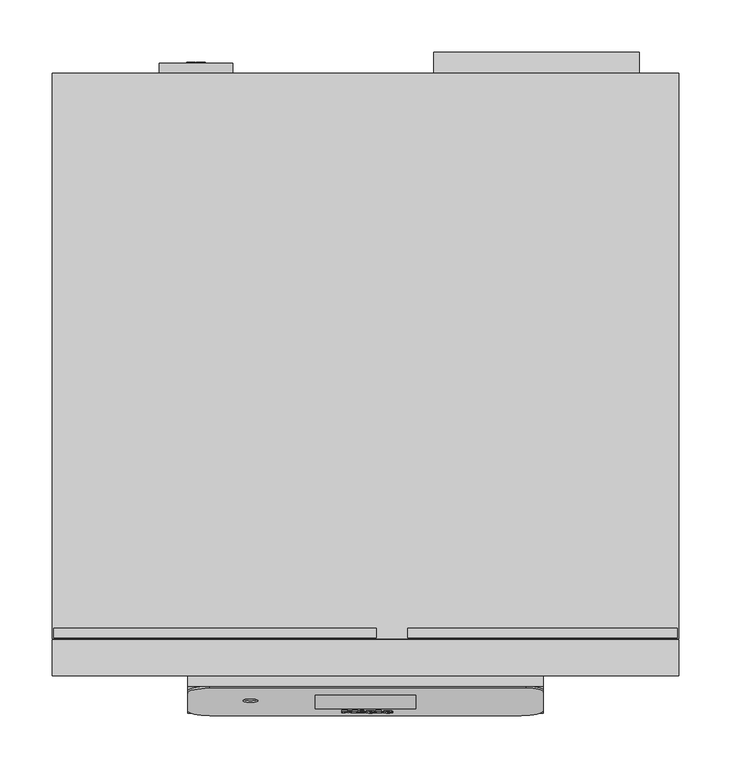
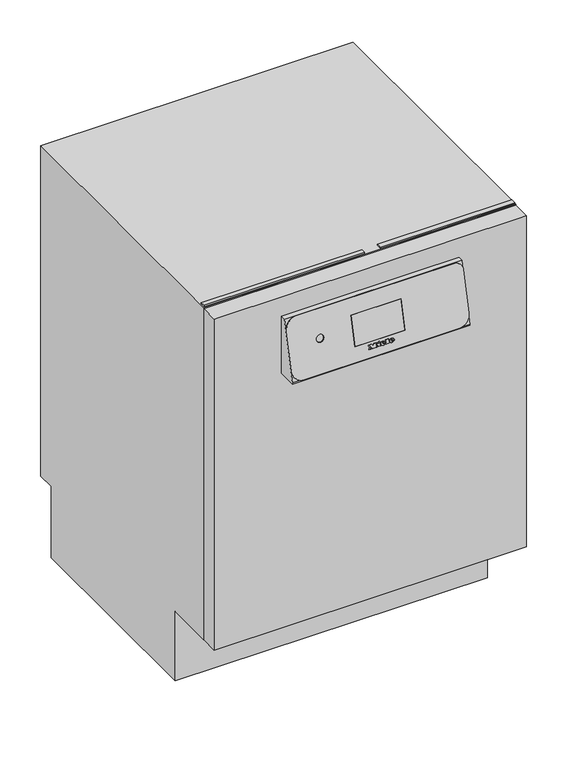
"""IFC4 building model written with IfcOpenShell, lengths in millimetres: proxy geometry, 12065780_NWE_PFD404UDOS_LW : 61040480_NWE_12065780_PFD404UDOS_LW."""

from ifc_helpers import new_model, si_unit, point, frame, frame_2d, origin, origin_with_axes, place, context, project, spatial, polyline, circle_curve, ellipse_curve, trimmed, segment, composite_curve, outline, extrude, source, transform, mapped, element, save
from ifc_brep_helpers import plane_surface, cylinder_surface, revolved_surface, extruded_surface, advanced_brep


def specialty_equipment_69813ec3(model_context):
    return source(origin(), model_context, "Body", "SolidModel", [
        advanced_brep(
        [(20.656, -35.3033059, 679.7712566), (20.656, -35.1215455, 680.5585476), (26.008, -35.1215455, 680.5585476), (16.696, -35.1215455, 680.5585476), (18.896, -35.7298131, 677.9238509), (25.872, -35.3033059, 679.7712566), (23.456, -35.3033059, 679.7712566), (21.552, -35.5048621, 678.898221), (20.656, -34.8911956, 681.5563025), (20.656, -34.6950383, 682.4059532), (22.024, -34.6950383, 682.4059532), (22.024, -34.8911956, 681.5563025), (20.656, -34.3289359, 679.5463055), (21.552, -34.530492, 678.6732699), (23.456, -34.3289359, 679.5463055), (25.872, -34.3289359, 679.5463055), (18.896, -34.7554431, 677.6988999), (16.696, -34.1471754, 680.3335965), (26.008, -34.1471754, 680.3335965), (20.656, -34.1471754, 680.3335965), (20.656, -33.9168255, 681.3313515), (22.024, -33.9168255, 681.3313515), (22.024, -33.7206682, 682.1810022), (20.656, -33.7206682, 682.1810022)],
        [
            (0, 1),
            (1, 2),
            (2, 3, ellipse_curve(frame((21.352, -35.1215455, 680.5585476), z_axis=(0.0, -0.9743700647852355, 0.22495105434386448), x_axis=(-1.0, 0.0, 0.0)), 4.656, 3.848)),
            (3, 4, circle_curve(frame((19.7920436, -35.0603588, 680.8235762), z_axis=(0.0, -0.9743700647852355, 0.22495105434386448), x_axis=(0.0, -0.22495105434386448, -0.9743700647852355)), 3.1079688)),
            (4, 5, circle_curve(frame((21.2587936, -34.5852622, 682.8814458), z_axis=(0.0, -0.9743700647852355, 0.22495105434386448), x_axis=(0.0, -0.22495105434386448, -0.9743700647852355)), 5.6098607)),
            (5, 6),
            (6, 7, circle_curve(frame((21.9430588, -35.1359424, 680.4961879), z_axis=(0.0, 0.9743700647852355, -0.22495105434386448), x_axis=(0.0, -0.22495105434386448, -0.9743700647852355)), 1.6859795)),
            (7, 0, circle_curve(frame((21.552, -35.3033059, 679.7712566), z_axis=(0.0, 0.9743700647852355, -0.22495105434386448), x_axis=(0.0, -0.22495105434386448, -0.9743700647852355)), 0.896)),
            (8, 9),
            (9, 10, circle_curve(frame((21.34, -34.6950383, 682.4059532), z_axis=(0.0, 0.9743700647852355, -0.22495105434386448), x_axis=(0.0, -0.22495105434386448, -0.9743700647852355)), 0.684)),
            (10, 11),
            (11, 8),
            (12, 13, circle_curve(frame((21.552, -34.3289359, 679.5463055), z_axis=(0.0, -0.9743700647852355, 0.22495105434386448), x_axis=(0.0, -0.22495105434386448, -0.9743700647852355)), 0.896)),
            (13, 14, circle_curve(frame((21.9430588, -34.1615723, 680.2712369), z_axis=(0.0, -0.9743700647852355, 0.22495105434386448), x_axis=(0.0, -0.22495105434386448, -0.9743700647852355)), 1.6859795)),
            (14, 15),
            (15, 16, circle_curve(frame((21.2587936, -33.6108921, 682.6564948), z_axis=(0.0, 0.9743700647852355, -0.22495105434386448), x_axis=(0.0, -0.22495105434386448, -0.9743700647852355)), 5.6098607)),
            (16, 17, circle_curve(frame((19.7920436, -34.0859887, 680.5986252), z_axis=(0.0, 0.9743700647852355, -0.22495105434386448), x_axis=(0.0, -0.22495105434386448, -0.9743700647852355)), 3.1079688)),
            (17, 18, ellipse_curve(frame((21.352, -34.1471754, 680.3335965), z_axis=(0.0, 0.9743700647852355, -0.22495105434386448), x_axis=(-1.0, 0.0, 0.0)), 4.656, 3.848)),
            (18, 19),
            (19, 12),
            (20, 21),
            (21, 22),
            (22, 23, circle_curve(frame((21.34, -33.7206682, 682.1810022), z_axis=(0.0, -0.9743700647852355, 0.22495105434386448), x_axis=(0.0, -0.22495105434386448, -0.9743700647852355)), 0.684)),
            (23, 20),
            (0, 12),
            (19, 1),
            (18, 2),
            (5, 15),
            (14, 6),
            (17, 3),
            (13, 7),
            (16, 4),
            (8, 20),
            (23, 9),
            (22, 10),
            (21, 11),
        ],
        [
            plane_surface(frame((20.656, -35.1215455, 680.5585476), z_axis=(0.0, -0.9743700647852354, 0.22495105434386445), x_axis=(0.0, 0.22495105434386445, 0.9743700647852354))),
            plane_surface(frame((20.656, -34.1471754, 680.3335965), z_axis=(0.0, 0.9743700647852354, -0.22495105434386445), x_axis=(0.0, -0.22495105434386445, -0.9743700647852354))),
            plane_surface(frame((20.656, -35.3033059, 679.7712566), z_axis=(1.0, 0.0, 0.0), x_axis=(0.0, 0.9743700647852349, -0.22495105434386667))),
            plane_surface(frame((20.656, -35.1215455, 680.5585476), z_axis=(0.0, -0.22495105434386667, -0.9743700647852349), x_axis=(0.0, 0.9743700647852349, -0.22495105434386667))),
            plane_surface(frame((25.872, -35.3033059, 679.7712566), z_axis=(0.0, 0.22495105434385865, 0.9743700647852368), x_axis=(0.0, 0.9743700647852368, -0.22495105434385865))),
            extruded_surface(trimmed(ellipse_curve(frame((21.352, -33.1728054, 680.1086455), z_axis=(0.0, -0.9743700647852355, 0.22495105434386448), x_axis=(-1.0, 0.0, 0.0)), 4.656, 3.848), [point((26.008, -33.1728054, 680.1086455))], [point((16.696, -33.1728054, 680.1086455))], True, "CARTESIAN"), (0.0, -0.9743700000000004, 0.22495100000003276), 0.9999999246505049),
            revolved_surface(polyline([(21.9430588, -34.54083511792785, 678.6284689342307), (21.9430588, -35.51520525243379, 678.8534200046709)]), (21.9430588, -34.1615723, 680.2712369), (0.0, 0.9743700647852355, -0.22495105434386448)),
            revolved_surface(polyline([(21.552, -34.53049199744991, 678.6732699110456), (21.552, -35.504862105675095, 678.8982209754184)]), (21.552, -34.3289359, 679.5463055), (0.0, 0.9743700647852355, -0.22495105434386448)),
            cylinder_surface(frame((19.7920436, -34.0859887, 680.5986252), z_axis=(0.0, -0.9743700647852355, 0.22495105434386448), x_axis=(0.0, -0.22495105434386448, -0.9743700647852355)), 3.1079688),
            cylinder_surface(frame((21.2587936, -33.6108921, 682.6564948), z_axis=(0.0, -0.9743700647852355, 0.22495105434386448), x_axis=(0.0, -0.22495105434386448, -0.9743700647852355)), 5.6098607),
            plane_surface(frame((20.656, -34.8911956, 681.5563025), z_axis=(1.0, 0.0, 0.0), x_axis=(0.0, 0.9743700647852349, -0.22495105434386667))),
            revolved_surface(polyline([(21.34, -33.8745347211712, 681.5145330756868), (21.34, -34.84890480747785, 681.7394841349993)]), (21.34, -33.7206682, 682.1810022), (0.0, 0.9743700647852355, -0.22495105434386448)),
            plane_surface(frame((22.024, -34.6950383, 682.4059532), z_axis=(-1.0, 0.0, 0.0), x_axis=(0.0, 0.9743700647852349, -0.22495105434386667))),
            plane_surface(frame((22.024, -34.8911956, 681.5563025), z_axis=(0.0, 0.22495105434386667, 0.9743700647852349), x_axis=(0.0, 0.9743700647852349, -0.22495105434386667))),
        ],
        [
            (0, [[1, 2, 3, 4, 5, 6, 7, 8], [9, 10, 11, 12]]),
            (1, [[13, 14, 15, 16, 17, 18, 19, 20], [21, 22, 23, 24]]),
            (2, [[-1, 25, -20, 26]]),
            (3, [[-2, -26, -19, 27]]),
            (4, [[-6, 28, -15, 29]]),
            (5, [[-3, -27, -18, 30]]),
            (6, [[-7, -29, -14, 31]]),
            (7, [[-8, -31, -13, -25]]),
            (8, [[-4, -30, -17, 32]]),
            (9, [[-5, -32, -16, -28]]),
            (10, [[-9, 33, -24, 34]]),
            (11, [[-10, -34, -23, 35]]),
            (12, [[-11, -35, -22, 36]]),
            (13, [[-12, -36, -21, -33]]),
        ],
    ),
        advanced_brep(
        [(3.96, -35.3033059, 679.7712566), (3.96, -35.1215455, 680.5585476), (9.312, -35.1215455, 680.5585476), (0.0, -35.1215455, 680.5585476), (2.2, -35.7298131, 677.9238509), (9.176, -35.3033059, 679.7712566), (6.76, -35.3033059, 679.7712566), (4.856, -35.5048621, 678.898221), (3.96, -34.8911956, 681.5563025), (3.96, -34.6950383, 682.4059532), (5.328, -34.6950383, 682.4059532), (5.328, -34.8911956, 681.5563025), (3.96, -34.3289359, 679.5463055), (4.856, -34.530492, 678.6732699), (6.76, -34.3289359, 679.5463055), (9.176, -34.3289359, 679.5463055), (2.2, -34.7554431, 677.6988999), (0.0, -34.1471754, 680.3335965), (9.312, -34.1471754, 680.3335965), (3.96, -34.1471754, 680.3335965), (3.96, -33.9168255, 681.3313515), (5.328, -33.9168255, 681.3313515), (5.328, -33.7206682, 682.1810022), (3.96, -33.7206682, 682.1810022)],
        [
            (0, 1),
            (1, 2),
            (2, 3, ellipse_curve(frame((4.656, -35.1215455, 680.5585476), z_axis=(0.0, -0.9743700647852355, 0.22495105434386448), x_axis=(-1.0, 0.0, 0.0)), 4.656, 3.848)),
            (3, 4, circle_curve(frame((3.0960436, -35.0603588, 680.8235762), z_axis=(0.0, -0.9743700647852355, 0.22495105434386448), x_axis=(0.0, -0.22495105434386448, -0.9743700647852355)), 3.1079688)),
            (4, 5, circle_curve(frame((4.5627936, -34.5852622, 682.8814458), z_axis=(0.0, -0.9743700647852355, 0.22495105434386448), x_axis=(0.0, -0.22495105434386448, -0.9743700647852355)), 5.6098607)),
            (5, 6),
            (6, 7, circle_curve(frame((5.2470588, -35.1359424, 680.4961879), z_axis=(0.0, 0.9743700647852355, -0.22495105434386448), x_axis=(0.0, -0.22495105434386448, -0.9743700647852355)), 1.6859795)),
            (7, 0, circle_curve(frame((4.856, -35.3033059, 679.7712566), z_axis=(0.0, 0.9743700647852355, -0.22495105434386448), x_axis=(0.0, -0.22495105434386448, -0.9743700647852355)), 0.896)),
            (8, 9),
            (9, 10, circle_curve(frame((4.644, -34.6950383, 682.4059532), z_axis=(0.0, 0.9743700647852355, -0.22495105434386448), x_axis=(0.0, -0.22495105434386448, -0.9743700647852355)), 0.684)),
            (10, 11),
            (11, 8),
            (12, 13, circle_curve(frame((4.856, -34.3289359, 679.5463055), z_axis=(0.0, -0.9743700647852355, 0.22495105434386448), x_axis=(0.0, -0.22495105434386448, -0.9743700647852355)), 0.896)),
            (13, 14, circle_curve(frame((5.2470588, -34.1615723, 680.2712369), z_axis=(0.0, -0.9743700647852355, 0.22495105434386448), x_axis=(0.0, -0.22495105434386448, -0.9743700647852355)), 1.6859795)),
            (14, 15),
            (15, 16, circle_curve(frame((4.5627936, -33.6108921, 682.6564948), z_axis=(0.0, 0.9743700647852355, -0.22495105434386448), x_axis=(0.0, -0.22495105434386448, -0.9743700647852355)), 5.6098607)),
            (16, 17, circle_curve(frame((3.0960436, -34.0859887, 680.5986252), z_axis=(0.0, 0.9743700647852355, -0.22495105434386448), x_axis=(0.0, -0.22495105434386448, -0.9743700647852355)), 3.1079688)),
            (17, 18, ellipse_curve(frame((4.656, -34.1471754, 680.3335965), z_axis=(0.0, 0.9743700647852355, -0.22495105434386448), x_axis=(-1.0, 0.0, 0.0)), 4.656, 3.848)),
            (18, 19),
            (19, 12),
            (20, 21),
            (21, 22),
            (22, 23, circle_curve(frame((4.644, -33.7206682, 682.1810022), z_axis=(0.0, -0.9743700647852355, 0.22495105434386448), x_axis=(0.0, -0.22495105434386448, -0.9743700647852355)), 0.684)),
            (23, 20),
            (0, 12),
            (19, 1),
            (18, 2),
            (5, 15),
            (14, 6),
            (17, 3),
            (13, 7),
            (16, 4),
            (8, 20),
            (23, 9),
            (22, 10),
            (21, 11),
        ],
        [
            plane_surface(frame((3.96, -35.1215455, 680.5585476), z_axis=(0.0, -0.9743700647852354, 0.22495105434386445), x_axis=(0.0, 0.22495105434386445, 0.9743700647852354))),
            plane_surface(frame((3.96, -34.1471754, 680.3335965), z_axis=(0.0, 0.9743700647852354, -0.22495105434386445), x_axis=(0.0, -0.22495105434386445, -0.9743700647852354))),
            plane_surface(frame((3.96, -35.3033059, 679.7712566), z_axis=(1.0000000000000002, 0.0, 0.0), x_axis=(0.0, 0.9743700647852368, -0.22495105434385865))),
            plane_surface(frame((3.96, -35.1215455, 680.5585476), z_axis=(0.0, -0.22495105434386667, -0.9743700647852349), x_axis=(0.0, 0.9743700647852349, -0.22495105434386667))),
            plane_surface(frame((9.176, -35.3033059, 679.7712566), z_axis=(0.0, 0.22495105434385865, 0.9743700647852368), x_axis=(0.0, 0.9743700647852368, -0.22495105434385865))),
            extruded_surface(trimmed(ellipse_curve(frame((4.656, -33.1728054, 680.1086455), z_axis=(0.0, -0.9743700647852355, 0.22495105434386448), x_axis=(-1.0, 0.0, 0.0)), 4.656, 3.848), [point((9.312, -33.1728054, 680.1086455))], [point((0.0, -33.1728054, 680.1086455))], True, "CARTESIAN"), (0.0, -0.9743700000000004, 0.22495100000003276), 0.9999999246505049),
            revolved_surface(polyline([(5.2470588, -34.54083511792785, 678.6284689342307), (5.2470588, -35.51520525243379, 678.8534200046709)]), (5.2470588, -34.1615723, 680.2712369), (0.0, 0.9743700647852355, -0.22495105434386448)),
            revolved_surface(polyline([(4.856, -34.53049199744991, 678.6732699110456), (4.856, -35.504862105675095, 678.8982209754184)]), (4.856, -34.3289359, 679.5463055), (0.0, 0.9743700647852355, -0.22495105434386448)),
            cylinder_surface(frame((3.0960436, -34.0859887, 680.5986252), z_axis=(0.0, -0.9743700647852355, 0.22495105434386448), x_axis=(0.0, -0.22495105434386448, -0.9743700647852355)), 3.1079688),
            cylinder_surface(frame((4.5627936, -33.6108921, 682.6564948), z_axis=(0.0, -0.9743700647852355, 0.22495105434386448), x_axis=(0.0, -0.22495105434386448, -0.9743700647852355)), 5.6098607),
            plane_surface(frame((3.96, -34.8911956, 681.5563025), z_axis=(1.0, 0.0, 0.0), x_axis=(0.0, 0.9743700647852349, -0.22495105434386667))),
            revolved_surface(polyline([(4.644, -33.8745347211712, 681.5145330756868), (4.644, -34.84890480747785, 681.7394841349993)]), (4.644, -33.7206682, 682.1810022), (0.0, 0.9743700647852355, -0.22495105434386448)),
            plane_surface(frame((5.328, -34.6950383, 682.4059532), z_axis=(-1.0, 0.0, 0.0), x_axis=(0.0, 0.9743700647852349, -0.22495105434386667))),
            plane_surface(frame((5.328, -34.8911956, 681.5563025), z_axis=(0.0, 0.22495105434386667, 0.9743700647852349), x_axis=(0.0, 0.9743700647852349, -0.22495105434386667))),
        ],
        [
            (0, [[1, 2, 3, 4, 5, 6, 7, 8], [9, 10, 11, 12]]),
            (1, [[13, 14, 15, 16, 17, 18, 19, 20], [21, 22, 23, 24]]),
            (2, [[-1, 25, -20, 26]]),
            (3, [[-2, -26, -19, 27]]),
            (4, [[-6, 28, -15, 29]]),
            (5, [[-3, -27, -18, 30]]),
            (6, [[-7, -29, -14, 31]]),
            (7, [[-8, -31, -13, -25]]),
            (8, [[-4, -30, -17, 32]]),
            (9, [[-5, -32, -16, -28]]),
            (10, [[-9, 33, -24, 34]]),
            (11, [[-10, -34, -23, 35]]),
            (12, [[-11, -35, -22, 36]]),
            (13, [[-12, -36, -21, -33]]),
        ],
    ),
        extrude(outline(polyline([(0.0, 0.0), (-0.0109086, -2.9993294), (-1.4390415, -2.9920868), (-1.4315307, 0.0), (0.0, 0.0)])), frame((-4.784, -33.0620115, 685.0339577), z_axis=(0.0, -0.9743700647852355, 0.22495105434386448), x_axis=(-0.4247202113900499, 0.20365373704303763, 0.8821212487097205)), (0.0, 0.0, 1.0), 1.0),
        extrude(outline(polyline([(-0.4933907, 2.4141097), (-2.7800844, -2.4601583), (-7.0459742, -0.4588766), (-7.4401146, -1.2990179), (-8.6568709, -0.728194), (-5.9760369, 4.9862153), (-4.7592806, 4.4153913), (-5.1636142, 3.5535223), (-2.1941493, 2.1604399), (-1.7898156, 3.022309), (-0.4933907, 2.4141097)])), frame((-4.784, -33.0620115, 685.0339577), z_axis=(0.0, -0.9743700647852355, 0.22495105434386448), x_axis=(-0.4247202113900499, 0.20365373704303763, 0.8821212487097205)), (0.0, 0.0, 1.0), 1.0),
        extrude(outline(polyline([(0.0, 0.0), (0.0, -1.304), (-5.504, -1.304), (-5.504, 5.352), (-6.488, 5.352), (-6.488, 6.696), (0.0, 6.696), (0.0, 5.352), (-0.96, 5.352), (-0.96, 0.0), (0.0, 0.0)])), frame((9.76, -33.2491708, 684.2232818), z_axis=(0.0, -0.9743700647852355, 0.22495105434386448), x_axis=(-1.0, 0.0, 0.0)), (0.0, 0.0, 1.0), 1.0),
        extrude(outline(polyline([(0.0, 0.0), (0.0, -1.304), (-5.576, -1.304), (-7.92, 1.696), (-10.256, -1.304), (-15.128, -1.304), (-15.128, 0.0), (-14.112, 0.0), (-14.112, 5.352), (-15.128, 5.352), (-15.128, 6.696), (-8.744, 6.696), (-8.744, 5.352), (-9.728, 5.352), (-9.728, 1.8807777), (-6.136, 6.696), (-2.56, 1.9488753), (-2.56, 5.352), (-3.52, 5.352), (-3.52, 6.696), (0.0, 6.696), (0.0, 5.352), (-0.968, 5.352), (-0.968, 0.0), (0.0, 0.0)])), frame((-22.704, -33.2491708, 684.2232818), z_axis=(0.0, -0.9743700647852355, 0.22495105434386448), x_axis=(-1.0, 0.0, 0.0)), (0.0, 0.0, 1.0), 1.0),
        extrude(outline(polyline([(-0.1038681, 775.5857792), (-0.1038681, 660.0), (-36.1981904, 660.0), (-36.1981904, 662.5588517), (-10.1038681, 775.5857792), (-0.1038681, 775.5857792)])), frame((-169.8831565, 0.0, 0.0), z_axis=(1.0, 0.0, 0.0), x_axis=(0.0, 1.0, 0.0)), (0.0, 0.0, 1.0), 339.766313),
        extrude(outline(polyline([(299.0, 34.0), (299.0, 0.0), (-299.0, 0.0), (-299.0, 34.0), (299.0, 34.0)])), frame((0.0, 0.0, 145.0), z_axis=(0.0, 0.0, 1.0), x_axis=(1.0, 0.0, 0.0)), (0.0, 0.0, 1.0), 670.0),
        advanced_brep(
        [(153.3281651, -12.0526082, 776.0356813), (-148.8831565, -12.0526082, 776.0356813), (-169.8831565, -16.7765804, 755.57391), (-169.8831565, -33.4229584, 683.4705252), (-148.8831565, -38.1469305, 663.0087538), (148.8831565, -38.1469305, 663.0087538), (169.8831565, -33.4229584, 683.4705252), (169.8831565, -15.776671, 759.9049933), (48.0, -18.9868916, 746.0), (48.0, -31.9155103, 690.0), (-48.0, -31.9155103, 690.0), (-48.0, -18.9868916, 746.0), (-102.8831565, -24.0088923, 724.2473253), (-116.8831565, -24.0088923, 724.2473253), (148.8831565, -36.1981904, 662.5588517), (169.8831565, -31.4742182, 683.0206231), (169.8831565, -13.8279308, 759.4550912), (153.3281651, -10.1038681, 775.5857792), (48.0, -16.9342834, 746.0), (48.0, -29.8629021, 690.0), (-48.0, -29.8629021, 690.0), (-48.0, -16.9342834, 746.0), (-148.8831565, -36.1981904, 662.5588517), (-169.8831565, -31.4742182, 683.0206231), (-169.8831565, -14.8278402, 755.1240079), (-148.8831565, -10.1038681, 775.5857792), (-116.8831565, -22.4281396, 723.8823798), (-102.8831565, -22.4281396, 723.8823798)],
        [
            (0, 1),
            (1, 2, circle_curve(frame((-148.8831565, -16.7765804, 755.57391), z_axis=(0.0, -0.9743700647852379, 0.22495105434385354), x_axis=(1.0, 0.0, 0.0)), 21.0)),
            (2, 3),
            (3, 4, circle_curve(frame((-148.8831565, -33.4229584, 683.4705252), z_axis=(0.0, -0.9743700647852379, 0.22495105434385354), x_axis=(1.0, 0.0, 0.0)), 21.0)),
            (4, 5),
            (5, 6, circle_curve(frame((148.8831565, -33.4229584, 683.4705252), z_axis=(0.0, -0.9743700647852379, 0.22495105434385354), x_axis=(1.0, 0.0, 0.0)), 21.0)),
            (6, 7),
            (7, 0, circle_curve(frame((153.3281651, -15.776671, 759.9049933), z_axis=(0.0, -0.9743700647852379, 0.22495105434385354), x_axis=(1.0, 0.0, 0.0)), 16.5549913)),
            (8, 9),
            (9, 10),
            (10, 11),
            (11, 8),
            (12, 13, circle_curve(frame((-109.8831565, -24.0088923, 724.2473253), z_axis=(0.0, 0.9743700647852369, -0.22495105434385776), x_axis=(1.0, 0.0, 0.0)), 7.0)),
            (13, 12, circle_curve(frame((-109.8831565, -24.0088923, 724.2473253), z_axis=(0.0, 0.9743700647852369, -0.22495105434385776), x_axis=(1.0, 0.0, 0.0)), 7.0)),
            (5, 14),
            (14, 15, circle_curve(frame((148.8831565, -31.4742182, 683.0206231), z_axis=(0.0, -0.9743700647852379, 0.22495105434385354), x_axis=(1.0, 0.0, 0.0)), 21.0)),
            (15, 6),
            (15, 16),
            (16, 7),
            (16, 17, circle_curve(frame((153.3281651, -13.8279308, 759.4550912), z_axis=(0.0, -0.9743700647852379, 0.22495105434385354), x_axis=(1.0, 0.0, 0.0)), 16.5549913)),
            (17, 0),
            (8, 18),
            (18, 19),
            (19, 9),
            (19, 20),
            (20, 10),
            (11, 21),
            (21, 18),
            (20, 21),
            (14, 22),
            (22, 23, circle_curve(frame((-148.8831565, -31.4742182, 683.0206231), z_axis=(0.0, 0.9743700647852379, -0.22495105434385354), x_axis=(1.0, 0.0, 0.0)), 21.0)),
            (23, 24),
            (24, 25, circle_curve(frame((-148.8831565, -14.8278402, 755.1240079), z_axis=(0.0, 0.9743700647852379, -0.22495105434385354), x_axis=(1.0, 0.0, 0.0)), 21.0)),
            (25, 17),
            (25, 1),
            (24, 2),
            (23, 3),
            (22, 4),
            (26, 27, circle_curve(frame((-109.8831565, -22.4281396, 723.8823798), z_axis=(0.0, -0.9743700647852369, 0.22495105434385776), x_axis=(1.0, 0.0, 0.0)), 7.0)),
            (27, 26, circle_curve(frame((-109.8831565, -22.4281396, 723.8823798), z_axis=(0.0, -0.9743700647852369, 0.22495105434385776), x_axis=(1.0, 0.0, 0.0)), 7.0)),
            (26, 13),
            (12, 27),
        ],
        [
            plane_surface(frame((-166.8819453, -12.0526082, 776.0356813), z_axis=(0.0, -0.9743700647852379, 0.22495105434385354), x_axis=(-1.0, 0.0, 0.0))),
            cylinder_surface(frame((148.8831565, -31.4742182, 683.0206231), z_axis=(0.0, -0.9743700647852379, 0.22495105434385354), x_axis=(1.0, 0.0, 0.0)), 21.0),
            plane_surface(frame((169.8831565, -33.4229584, 683.4705252), z_axis=(1.0000000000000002, 0.0, 0.0), x_axis=(0.0, 0.9743700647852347, -0.22495105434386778))),
            cylinder_surface(frame((153.3281651, -13.8279308, 759.4550912), z_axis=(0.0, -0.9743700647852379, 0.22495105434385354), x_axis=(1.0, 0.0, 0.0)), 16.5549913),
            plane_surface(frame((48.0, -31.9155103, 690.0), z_axis=(-1.0, 0.0, 0.0), x_axis=(0.0, 1.0, 0.0))),
            plane_surface(frame((48.0, -31.9155103, 690.0), z_axis=(0.0, 0.0, 1.0), x_axis=(-1.0, 0.0, 0.0))),
            plane_surface(frame((48.0, -16.9342834, 746.0), z_axis=(0.0, 0.0, -1.0), x_axis=(-1.0, 0.0, 0.0))),
            plane_surface(frame((-48.0, -31.9155103, 690.0), z_axis=(1.0, 0.0, 0.0), x_axis=(0.0, -1.0, 0.0))),
            plane_surface(frame((-166.8819453, -10.1038681, 775.5857792), z_axis=(0.0, 0.9743700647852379, -0.22495105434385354), x_axis=(1.0, 0.0, 0.0))),
            plane_surface(frame((153.3281651, -12.0526082, 776.0356813), z_axis=(0.0, 0.22495105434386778, 0.9743700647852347), x_axis=(0.0, 0.9743700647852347, -0.22495105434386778))),
            cylinder_surface(frame((-148.8831565, -14.8278402, 755.1240079), z_axis=(0.0, -0.9743700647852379, 0.22495105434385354), x_axis=(1.0, 0.0, 0.0)), 21.0),
            plane_surface(frame((-169.8831565, -16.7765804, 755.57391), z_axis=(-1.0, 0.0, 0.0), x_axis=(0.0, 0.9743700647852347, -0.22495105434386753))),
            cylinder_surface(frame((-148.8831565, -31.4742182, 683.0206231), z_axis=(0.0, -0.9743700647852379, 0.22495105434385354), x_axis=(1.0, 0.0, 0.0)), 21.0),
            plane_surface(frame((-148.8831565, -38.1469305, 663.0087538), z_axis=(0.0, -0.22495105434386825, -0.9743700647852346), x_axis=(0.0, 0.9743700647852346, -0.22495105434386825))),
            plane_surface(frame((-102.8831565, -22.4281396, 723.8823798), z_axis=(0.0, -0.9743700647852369, 0.2249510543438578), x_axis=(0.0, -0.2249510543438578, -0.9743700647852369))),
            revolved_surface(polyline([(-102.8831565, -24.008892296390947, 724.2473253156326), (-102.8831565, -22.4281396, 723.8823798)]), (-109.8831565, -22.4281396, 723.8823798), (0.0, -0.9743700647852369, 0.22495105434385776)),
        ],
        [
            (0, [[1, 2, 3, 4, 5, 6, 7, 8], [9, 10, 11, 12], [13, 14]]),
            (1, [[-6, 15, 16, 17]]),
            (2, [[-7, -17, 18, 19]]),
            (3, [[-8, -19, 20, 21]]),
            (4, [[22, 23, 24, -9]]),
            (5, [[-24, 25, 26, -10]]),
            (6, [[-22, -12, 27, 28]]),
            (7, [[-26, 29, -27, -11]]),
            (8, [[-20, -18, -16, 30, 31, 32, 33, 34], [-23, -28, -29, -25]]),
            (9, [[-1, -21, -34, 35]]),
            (10, [[-2, -35, -33, 36]]),
            (11, [[-3, -36, -32, 37]]),
            (12, [[-4, -37, -31, 38]]),
            (13, [[-5, -38, -30, -15]]),
            (14, [[39, 40]]),
            (15, [[-39, 41, -13, 42]]),
            (15, [[-40, -42, -14, -41]]),
        ],
    ),
        extrude(outline(polyline([(-29.8629021, 690.0), (-31.9155103, 690.0), (-18.9868916, 746.0), (-16.9342834, 746.0), (-29.8629021, 690.0)])), frame((-48.0, 0.0, 0.0), z_axis=(1.0, 0.0, 0.0), x_axis=(0.0, 1.0, 0.0)), (0.0, 0.0, 1.0), 96.0),
        extrude(outline(polyline([(297.9027562, 45.259625), (297.9027562, 36.259625), (40.425123, 36.259625), (40.425123, 45.259625), (297.9027562, 45.259625)])), frame((0.0, 0.0, 817.0), z_axis=(0.0, 0.0, 1.0), x_axis=(1.0, 0.0, 0.0)), (0.0, 0.0, 1.0), 3.0),
        extrude(outline(polyline([(10.1158911, 45.259625), (10.1158911, 36.259625), (-297.5390632, 36.259625), (-297.5390632, 45.259625), (10.1158911, 45.259625)])), frame((0.0, 0.0, 817.0), z_axis=(0.0, 0.0, 1.0), x_axis=(1.0, 0.0, 0.0)), (0.0, 0.0, 1.0), 3.0),
        extrude(outline(polyline([(35.0, 817.0), (575.0, 817.0), (575.0, 148.0), (541.0, 148.0), (541.0, 4.2000122), (129.0, 4.2000122), (129.0, 145.0), (35.0, 145.0), (35.0, 817.0)])), frame((-299.0, 0.0, 0.0), z_axis=(1.0, 0.0, 0.0), x_axis=(0.0, 1.0, 0.0)), (0.0, 0.0, 1.0), 598.0),
        extrude(outline(polyline([(-172.0947306, 541.0), (-252.9150967, 541.0), (-252.9150967, 546.8796322), (-172.0947306, 546.8796322), (-172.0947306, 541.0)])), frame((0.0, 0.0, 83.2113443), z_axis=(0.0, 0.0, 1.0), x_axis=(1.0, 0.0, 0.0)), (0.0, 0.0, 1.0), 9.5402229),
        extrude(outline(polyline([(-172.0947306, 541.0), (-252.9150967, 541.0), (-252.9150967, 546.8796322), (-172.0947306, 546.8796322), (-172.0947306, 541.0)])), frame((0.0, 0.0, 67.2113431), z_axis=(0.0, 0.0, 1.0), x_axis=(1.0, 0.0, 0.0)), (0.0, 0.0, 1.0), 9.5826234),
        extrude(outline(polyline([(-172.0947306, 541.0), (-252.9150967, 541.0), (-252.9150967, 546.8796322), (-172.0947306, 546.8796322), (-172.0947306, 541.0)])), frame((0.0, 0.0, 49.1113767), z_axis=(0.0, 0.0, 1.0), x_axis=(1.0, 0.0, 0.0)), (0.0, 0.0, 1.0), 11.5700235),
        extrude(outline(polyline([(48.0999756, 96.1730873), (58.1456066, 98.9125818), (58.1456066, 97.6176372), (51.5433511, 96.028387), (49.5052848, 95.5378777), (51.3079066, 95.0130327), (58.1456066, 93.0215648), (58.1456066, 91.1551768), (53.1890099, 89.7081743), (49.5052848, 88.6315064), (51.4844899, 88.1557123), (58.1456066, 86.5517468), (58.1456066, 85.2568022), (48.0999756, 87.9987493), (48.0999756, 89.3402923), (55.850023, 91.7486931), (56.931596, 92.084692), (55.6292938, 92.4623842), (48.0999756, 94.6574134), (48.0999756, 96.1730873)])), frame((0.0, 571.0, 0.0), z_axis=(0.0, 1.0, 0.0), x_axis=(0.0, 0.0, 1.0)), (0.0, 0.0, 1.0), 1.0),
        extrude(outline(polyline([(48.0999756, 82.2033816), (58.1456066, 84.9428762), (58.1456066, 83.6479316), (51.5433511, 82.0586814), (49.5052848, 81.568172), (51.3079066, 81.0433271), (58.1456066, 79.0518592), (58.1456066, 77.1854712), (53.1890099, 75.7384687), (49.5052848, 74.6618007), (51.4844899, 74.1860067), (58.1456066, 72.5820412), (58.1456066, 71.2870966), (48.0999756, 74.0290437), (48.0999756, 75.3705867), (55.850023, 77.7789875), (56.931596, 78.1149864), (55.6292938, 78.4926786), (48.0999756, 80.6877078), (48.0999756, 82.2033816)])), frame((0.0, 571.0, 0.0), z_axis=(0.0, 1.0, 0.0), x_axis=(0.0, 0.0, 1.0)), (0.0, 0.0, 1.0), 1.0),
        extrude(outline(polyline([(56.599963, 201.5578418), (66.645594, 204.2973364), (66.645594, 203.0023917), (60.0433385, 201.4131415), (58.0052722, 200.9226322), (59.807894, 200.3977872), (66.645594, 198.4063193), (66.645594, 196.5399313), (61.6889973, 195.0929288), (58.0052722, 194.0162609), (59.9844773, 193.5404668), (66.645594, 191.9365013), (66.645594, 190.6415567), (56.599963, 193.3835038), (56.599963, 194.7250468), (64.3500104, 197.1334476), (65.4315834, 197.4694465), (64.1292812, 197.8471387), (56.599963, 200.0421679), (56.599963, 201.5578418)])), frame((0.0, 571.0, 0.0), z_axis=(0.0, 1.0, 0.0), x_axis=(0.0, 0.0, 1.0)), (0.0, 0.0, 1.0), 1.0),
        extrude(outline(polyline([(56.599963, 212.6163745), (66.645594, 212.6163745), (66.645594, 211.3606707), (61.728238, 211.3606707), (66.645594, 206.2103227), (66.645594, 204.4542993), (62.5155055, 208.7781391), (56.599963, 204.2973364), (56.599963, 205.8326305), (61.6669243, 209.6684135), (60.0531487, 211.3606707), (56.599963, 211.3606707), (56.599963, 212.6163745)])), frame((0.0, 571.0, 0.0), z_axis=(0.0, 1.0, 0.0), x_axis=(0.0, 0.0, 1.0)), (0.0, 0.0, 1.0), 1.0),
        extrude(outline(composite_curve([segment(trimmed(circle_curve(frame_2d((61.599963, 202.0998546)), 8.0), [point((61.599963, 194.0998546))], [point((61.599963, 210.0998546))], False, "CARTESIAN"), True, "CONTINUOUS"), segment(trimmed(circle_curve(frame_2d((61.599963, 202.0998546)), 8.0), [point((61.599963, 210.0998546))], [point((61.599963, 194.0998546))], False, "CARTESIAN"), True, "CONTINUOUS")], self_intersect=False)), frame((0.0, 541.0, 0.0), z_axis=(0.0, 1.0, 0.0), x_axis=(0.0, 0.0, 1.0)), (0.0, 0.0, 1.0), 30.0),
        extrude(outline(polyline([(61.1702758, 140.618963), (71.2159068, 140.618963), (71.2159068, 133.3986657), (69.960203, 133.3986657), (69.960203, 139.3632591), (66.9779062, 139.3632591), (66.9779062, 133.7125916), (65.7222024, 133.7125916), (65.7222024, 139.3632591), (62.4259797, 139.3632591), (62.4259797, 133.2417027), (61.1702758, 133.2417027), (61.1702758, 140.618963)])), frame((0.0, 571.0, 0.0), z_axis=(0.0, 1.0, 0.0), x_axis=(0.0, 0.0, 1.0)), (0.0, 0.0, 1.0), 1.0),
        extrude(outline(polyline([(61.1702758, 131.3581469), (71.2159068, 131.3581469), (71.2159068, 130.102443), (62.4259797, 130.102443), (62.4259797, 125.0796275), (61.1702758, 125.0796275), (61.1702758, 131.3581469)])), frame((0.0, 571.0, 0.0), z_axis=(0.0, 1.0, 0.0), x_axis=(0.0, 0.0, 1.0)), (0.0, 0.0, 1.0), 1.0),
        extrude(outline(polyline([(118.1398187, 18.2077062), (128.1854497, 18.2077062), (128.1854497, 14.7422578), (128.0407495, 12.9494462), (127.3221533, 11.4730132), (125.6053707, 10.283528), (123.2165903, 9.888668), (121.1895605, 10.1559956), (119.7266164, 10.8427087), (118.8154953, 11.7599611), (118.311497, 12.9604827), (118.1398187, 14.5754846), (118.1398187, 18.2077062)]), holes=[polyline([(119.3955226, 16.9520023), (119.3955226, 14.7299951), (119.5770111, 13.1137669), (120.0895933, 12.1817991), (121.3367133, 11.4178309), (123.2362106, 11.1443719), (125.6151809, 11.6802533), (126.728637, 12.9837819), (126.9297459, 14.7643307), (126.9297459, 16.9520023), (119.3955226, 16.9520023)])]), frame((0.0, 571.0, 0.0), z_axis=(0.0, 1.0, 0.0), x_axis=(0.0, 0.0, 1.0)), (0.0, 0.0, 1.0), 1.0),
        extrude(outline(polyline([(121.5930044, 8.6329642), (121.5930044, 7.3772603), (120.3360742, 6.9725901), (119.5414491, 5.9842138), (119.2385596, 4.4783502), (119.4678727, 3.1662377), (120.0981772, 2.3188828), (120.940627, 2.0405188), (121.7242156, 2.2489853), (122.2944327, 3.1024715), (122.7739056, 4.930845), (123.3931736, 6.8990137), (124.3275939, 7.9670977), (125.5759401, 8.3190382), (126.9971909, 7.8837112), (128.0002825, 6.6120657), (128.3424127, 4.7505828), (127.9843409, 2.7640201), (126.9321984, 1.4396449), (125.360116, 0.9417779), (125.360116, 2.1974818), (126.6501555, 2.9087203), (127.0867088, 4.7015319), (126.6550606, 6.4992486), (125.6127283, 7.0633343), (124.7420743, 6.6635692), (124.0406459, 4.6132402), (123.4103414, 2.391233), (122.3925346, 1.1759961), (120.9725101, 0.7848149), (119.4703253, 1.2348572), (118.3740369, 2.5298019), (117.9828557, 4.4292992), (118.4046938, 6.6721531), (119.6751129, 8.0909513), (121.5930044, 8.6329642)])), frame((0.0, 571.0, 0.0), z_axis=(0.0, 1.0, 0.0), x_axis=(0.0, 0.0, 1.0)), (0.0, 0.0, 1.0), 1.0),
        extrude(outline(composite_curve([segment(trimmed(circle_curve(frame_2d((126.8499756, 10.1811127)), 2.9851521), [point((126.8499756, 7.1959606))], [point((126.8499756, 13.1662647))], False, "CARTESIAN"), True, "CONTINUOUS"), segment(trimmed(circle_curve(frame_2d((126.8499756, 10.1811127)), 2.9851521), [point((126.8499756, 13.1662647))], [point((126.8499756, 7.1959606))], False, "CARTESIAN"), True, "CONTINUOUS")], self_intersect=False)), frame((0.0, 541.0, 0.0), z_axis=(0.0, 1.0, 0.0), x_axis=(0.0, 0.0, 1.0)), (0.0, 0.0, 1.0), 30.0),
        extrude(outline(composite_curve([segment(trimmed(circle_curve(frame_2d((117.0999756, 10.1811127)), 3.0), [point((117.0999756, 7.1811127))], [point((117.0999756, 13.1811127))], False, "CARTESIAN"), True, "CONTINUOUS"), segment(trimmed(circle_curve(frame_2d((117.0999756, 10.1811127)), 3.0), [point((117.0999756, 13.1811127))], [point((117.0999756, 7.1811127))], False, "CARTESIAN"), True, "CONTINUOUS")], self_intersect=False)), frame((0.0, 541.0, 0.0), z_axis=(0.0, 1.0, 0.0), x_axis=(0.0, 0.0, 1.0)), (0.0, 0.0, 1.0), 30.0),
        extrude(outline(composite_curve([segment(trimmed(circle_curve(frame_2d((107.3499443, 10.1811127)), 3.0), [point((107.3499443, 7.1811127))], [point((107.3499443, 13.1811127))], False, "CARTESIAN"), True, "CONTINUOUS"), segment(trimmed(circle_curve(frame_2d((107.3499443, 10.1811127)), 3.0), [point((107.3499443, 13.1811127))], [point((107.3499443, 7.1811127))], False, "CARTESIAN"), True, "CONTINUOUS")], self_intersect=False)), frame((0.0, 541.0, 0.0), z_axis=(0.0, 1.0, 0.0), x_axis=(0.0, 0.0, 1.0)), (0.0, 0.0, 1.0), 30.0),
        extrude(outline(composite_curve([segment(trimmed(circle_curve(frame_2d((136.5999756, 10.1811127)), 3.0), [point((136.5999756, 7.1811127))], [point((136.5999756, 13.1811127))], False, "CARTESIAN"), True, "CONTINUOUS"), segment(trimmed(circle_curve(frame_2d((136.5999756, 10.1811127)), 3.0), [point((136.5999756, 13.1811127))], [point((136.5999756, 7.1811127))], False, "CARTESIAN"), True, "CONTINUOUS")], self_intersect=False)), frame((0.0, 541.0, 0.0), z_axis=(0.0, 1.0, 0.0), x_axis=(0.0, 0.0, 1.0)), (0.0, 0.0, 1.0), 30.0),
        extrude(outline(polyline([(99.6239875, 19.6811122), (148.0, 19.6811122), (148.0, 1.1811127), (99.6239875, 1.1811127), (99.6239875, 19.6811122)]), holes=[polyline([(100.6239875, 18.6811122), (100.6239875, 2.1811127), (147.0, 2.1811127), (147.0, 18.6811122), (100.6239875, 18.6811122)])]), frame((0.0, 541.0, 0.0), z_axis=(0.0, 1.0, 0.0), x_axis=(0.0, 0.0, 1.0)), (0.0, 0.0, 1.0), 1.0),
        extrude(outline(polyline([(118.1398187, -7.1235653), (128.1854497, -7.1235653), (128.1854497, -10.5890137), (128.0407495, -12.3818253), (127.3221533, -13.8582584), (125.6053707, -15.0477435), (123.2165903, -15.4426035), (121.1895605, -15.1752759), (119.7266164, -14.4885629), (118.8154953, -13.5713104), (118.311497, -12.3707889), (118.1398187, -10.7557869), (118.1398187, -7.1235653)]), holes=[polyline([(119.3955226, -8.3792692), (119.3955226, -10.6012765), (119.5770111, -12.2175047), (120.0895933, -13.1494724), (121.3367133, -13.9134407), (123.2362106, -14.1868996), (125.6151809, -13.6510182), (126.728637, -12.3474897), (126.9297459, -10.5669408), (126.9297459, -8.3792692), (119.3955226, -8.3792692)])]), frame((0.0, 571.0, 0.0), z_axis=(0.0, 1.0, 0.0), x_axis=(0.0, 0.0, 1.0)), (0.0, 0.0, 1.0), 1.0),
        extrude(outline(polyline([(121.5930044, -16.6983074), (121.5930044, -17.9540113), (120.3360742, -18.3586815), (119.5414491, -19.3470578), (119.2385596, -20.8529214), (119.4678727, -22.1650338), (120.0981772, -23.0123887), (120.940627, -23.2907528), (121.7242156, -23.0822863), (122.2944327, -22.2288001), (122.7739056, -20.4004265), (123.3931736, -18.4322579), (124.3275939, -17.3641738), (125.5759401, -17.0122334), (126.9971909, -17.4475604), (128.0002825, -18.7192058), (128.3424127, -20.5806887), (127.9843409, -22.5672515), (126.9321984, -23.8916267), (125.360116, -24.3894936), (125.360116, -23.1337898), (126.6501555, -22.4225512), (127.0867088, -20.6297397), (126.6550606, -18.832023), (125.6127283, -18.2679372), (124.7420743, -18.6677023), (124.0406459, -20.7180313), (123.4103414, -22.9400386), (122.3925346, -24.1552754), (120.9725101, -24.5464566), (119.4703253, -24.0964143), (118.3740369, -22.8014697), (117.9828557, -20.9019723), (118.4046938, -18.6591184), (119.6751129, -17.2403202), (121.5930044, -16.6983074)])), frame((0.0, 571.0, 0.0), z_axis=(0.0, 1.0, 0.0), x_axis=(0.0, 0.0, 1.0)), (0.0, 0.0, 1.0), 1.0),
        extrude(outline(composite_curve([segment(trimmed(circle_curve(frame_2d((126.8499756, -15.1501589)), 2.9851521), [point((126.8499756, -18.135311))], [point((126.8499756, -12.1650068))], False, "CARTESIAN"), True, "CONTINUOUS"), segment(trimmed(circle_curve(frame_2d((126.8499756, -15.1501589)), 2.9851521), [point((126.8499756, -12.1650068))], [point((126.8499756, -18.135311))], False, "CARTESIAN"), True, "CONTINUOUS")], self_intersect=False)), frame((0.0, 541.0, 0.0), z_axis=(0.0, 1.0, 0.0), x_axis=(0.0, 0.0, 1.0)), (0.0, 0.0, 1.0), 30.0),
        extrude(outline(composite_curve([segment(trimmed(circle_curve(frame_2d((117.0999756, -15.1501589)), 3.0), [point((117.0999756, -18.1501589))], [point((117.0999756, -12.1501589))], False, "CARTESIAN"), True, "CONTINUOUS"), segment(trimmed(circle_curve(frame_2d((117.0999756, -15.1501589)), 3.0), [point((117.0999756, -12.1501589))], [point((117.0999756, -18.1501589))], False, "CARTESIAN"), True, "CONTINUOUS")], self_intersect=False)), frame((0.0, 541.0, 0.0), z_axis=(0.0, 1.0, 0.0), x_axis=(0.0, 0.0, 1.0)), (0.0, 0.0, 1.0), 30.0),
        extrude(outline(composite_curve([segment(trimmed(circle_curve(frame_2d((107.3499443, -15.1501589)), 3.0), [point((107.3499443, -18.1501589))], [point((107.3499443, -12.1501589))], False, "CARTESIAN"), True, "CONTINUOUS"), segment(trimmed(circle_curve(frame_2d((107.3499443, -15.1501589)), 3.0), [point((107.3499443, -12.1501589))], [point((107.3499443, -18.1501589))], False, "CARTESIAN"), True, "CONTINUOUS")], self_intersect=False)), frame((0.0, 541.0, 0.0), z_axis=(0.0, 1.0, 0.0), x_axis=(0.0, 0.0, 1.0)), (0.0, 0.0, 1.0), 30.0),
        extrude(outline(composite_curve([segment(trimmed(circle_curve(frame_2d((136.5999756, -15.1501589)), 3.0), [point((136.5999756, -18.1501589))], [point((136.5999756, -12.1501589))], False, "CARTESIAN"), True, "CONTINUOUS"), segment(trimmed(circle_curve(frame_2d((136.5999756, -15.1501589)), 3.0), [point((136.5999756, -12.1501589))], [point((136.5999756, -18.1501589))], False, "CARTESIAN"), True, "CONTINUOUS")], self_intersect=False)), frame((0.0, 541.0, 0.0), z_axis=(0.0, 1.0, 0.0), x_axis=(0.0, 0.0, 1.0)), (0.0, 0.0, 1.0), 30.0),
        extrude(outline(polyline([(99.6239875, -5.6501594), (148.0, -5.6501594), (148.0, -24.1501589), (99.6239875, -24.1501589), (99.6239875, -5.6501594)]), holes=[polyline([(100.6239875, -6.6501594), (100.6239875, -23.1501589), (147.0, -23.1501589), (147.0, -6.6501594), (100.6239875, -6.6501594)])]), frame((0.0, 541.0, 0.0), z_axis=(0.0, 1.0, 0.0), x_axis=(0.0, 0.0, 1.0)), (0.0, 0.0, 1.0), 1.0),
        extrude(outline(polyline([(294.0108337, -153.1353281), (304.0564648, -153.1353281), (304.0564648, -156.6007765), (303.9117645, -158.3935881), (303.1931683, -159.8700212), (301.4763857, -161.0595063), (299.0876053, -161.4543663), (297.0605755, -161.1870387), (295.5976314, -160.5003256), (294.6865103, -159.5830732), (294.182512, -158.3825516), (294.0108337, -156.7675497), (294.0108337, -153.1353281)]), holes=[polyline([(295.2665376, -154.391032), (295.2665376, -156.6130392), (295.4480261, -158.2292675), (295.9606083, -159.1612352), (297.2077283, -159.9252035), (299.1072256, -160.1986624), (301.4861959, -159.662781), (302.5996521, -158.3592524), (302.8007609, -156.5787036), (302.8007609, -154.391032), (295.2665376, -154.391032)])]), frame((0.0, 585.0, 0.0), z_axis=(0.0, 1.0, 0.0), x_axis=(0.0, 0.0, 1.0)), (0.0, 0.0, 1.0), 1.0),
        extrude(outline(polyline([(297.4640194, -162.7100702), (297.4640194, -163.965774), (296.2070893, -164.3704442), (295.4124641, -165.3588205), (295.1095746, -166.8646842), (295.3388877, -168.1767966), (295.9691922, -169.0241515), (296.811642, -169.3025155), (297.5952306, -169.094049), (298.1654477, -168.2405628), (298.6449206, -166.4121893), (299.2641886, -164.4440206), (300.1986089, -163.3759366), (301.4469551, -163.0239961), (302.8682059, -163.4593232), (303.8712975, -164.7309686), (304.2134277, -166.5924515), (303.8553559, -168.5790143), (302.8032134, -169.9033894), (301.231131, -170.4012564), (301.231131, -169.1455525), (302.5211706, -168.434314), (302.9577239, -166.6415024), (302.5260757, -164.8437857), (301.4837433, -164.2797), (300.6130893, -164.6794651), (299.9116609, -166.7297941), (299.2813565, -168.9518013), (298.2635496, -170.1670382), (296.8435251, -170.5582194), (295.3413403, -170.1081771), (294.2450519, -168.8132325), (293.8538708, -166.9137351), (294.2757088, -164.6708812), (295.5461279, -163.252083), (297.4640194, -162.7100702)])), frame((0.0, 585.0, 0.0), z_axis=(0.0, 1.0, 0.0), x_axis=(0.0, 0.0, 1.0)), (0.0, 0.0, 1.0), 1.0),
        extrude(outline(composite_curve([segment(trimmed(circle_curve(frame_2d((299.0108337, -161.6898108)), 35.0), [point((299.0108337, -196.6898108))], [point((299.0108337, -126.6898108))], False, "CARTESIAN"), True, "CONTINUOUS"), segment(trimmed(circle_curve(frame_2d((299.0108337, -161.6898108)), 35.0), [point((299.0108337, -126.6898108))], [point((299.0108337, -196.6898108))], False, "CARTESIAN"), True, "CONTINUOUS")], self_intersect=False)), frame((0.0, 575.0, 0.0), z_axis=(0.0, 1.0, 0.0), x_axis=(0.0, 0.0, 1.0)), (0.0, 0.0, 1.0), 10.0),
        extrude(outline(polyline([(134.5999756, -252.738078), (144.6456066, -252.738078), (144.6456066, -256.4610438), (144.5499573, -257.9620023), (144.0802946, -259.1821442), (143.1090861, -259.9730905), (141.7393388, -260.2723012), (139.5688351, -259.4641871), (138.6810132, -256.5468829), (138.6810132, -253.9937818), (134.5999756, -253.9937818), (134.5999756, -252.738078)]), holes=[polyline([(139.9367171, -253.9937818), (139.9367171, -256.6204593), (140.3977958, -258.4696795), (141.695193, -259.0165974), (142.7350728, -258.6940875), (143.3040636, -257.8467326), (143.3899027, -256.5910287), (143.3899027, -253.9937818), (139.9367171, -253.9937818)])]), frame((0.0, 571.0, 0.0), z_axis=(0.0, 1.0, 0.0), x_axis=(0.0, 0.0, 1.0)), (0.0, 0.0, 1.0), 1.0),
        extrude(outline(polyline([(134.5999756, -260.8290293), (144.6456066, -264.8389431), (144.6456066, -265.9082534), (134.5999756, -269.9181671), (134.5999756, -268.5913394), (137.7392353, -267.441095), (137.7392353, -263.3036489), (134.5999756, -262.155857), (134.5999756, -260.8290293)]), holes=[polyline([(138.9949392, -263.7647276), (138.9949392, -266.9824688), (141.4646536, -266.0774791), (143.3899027, -265.3735982), (141.6804777, -264.7481988), (138.9949392, -263.7647276)])]), frame((0.0, 571.0, 0.0), z_axis=(0.0, 1.0, 0.0), x_axis=(0.0, 0.0, 1.0)), (0.0, 0.0, 1.0), 1.0),
        extrude(outline(composite_curve([segment(trimmed(circle_curve(frame_2d((139.5999756, -260.9001532)), 8.0), [point((139.5999756, -268.9001532))], [point((139.5999756, -252.9001532))], False, "CARTESIAN"), True, "CONTINUOUS"), segment(trimmed(circle_curve(frame_2d((139.5999756, -260.9001532)), 8.0), [point((139.5999756, -252.9001532))], [point((139.5999756, -268.9001532))], False, "CARTESIAN"), True, "CONTINUOUS")], self_intersect=False)), frame((0.0, 541.0, 0.0), z_axis=(0.0, 1.0, 0.0), x_axis=(0.0, 0.0, 1.0)), (0.0, 0.0, 1.0), 30.0),
        extrude(outline(composite_curve([segment(trimmed(circle_curve(frame_2d((51.0, 85.0998392)), 8.0), [point((51.0, 77.0998392))], [point((51.0, 93.0998392))], False, "CARTESIAN"), True, "CONTINUOUS"), segment(trimmed(circle_curve(frame_2d((51.0, 85.0998392)), 8.0), [point((51.0, 93.0998392))], [point((51.0, 77.0998392))], False, "CARTESIAN"), True, "CONTINUOUS")], self_intersect=False)), frame((0.0, 541.0, 0.0), z_axis=(0.0, 1.0, 0.0), x_axis=(0.0, 0.0, 1.0)), (0.0, 0.0, 1.0), 30.0),
        extrude(outline(composite_curve([segment(trimmed(circle_curve(frame_2d((66.0, 134.0)), 8.0), [point((66.0, 126.0))], [point((66.0, 142.0))], False, "CARTESIAN"), True, "CONTINUOUS"), segment(trimmed(circle_curve(frame_2d((66.0, 134.0)), 8.0), [point((66.0, 142.0))], [point((66.0, 126.0))], False, "CARTESIAN"), True, "CONTINUOUS")], self_intersect=False)), frame((0.0, 541.0, 0.0), z_axis=(0.0, 1.0, 0.0), x_axis=(0.0, 0.0, 1.0)), (0.0, 0.0, 1.0), 30.0),
        extrude(outline(polyline([(-246.8707486, 541.0), (-246.8707486, 505.0), (-294.0966381, 505.0), (-294.0966381, 541.0), (-246.8707486, 541.0)])), origin_with_axes(), (0.0, 0.0, 1.0), 4.2000122),
        extrude(outline(polyline([(246.8707486, 541.0), (294.0966381, 541.0), (294.0966381, 505.0), (246.8707486, 505.0), (246.8707486, 541.0)])), origin_with_axes(), (0.0, 0.0, 1.0), 4.2000122),
        extrude(outline(composite_curve([segment(trimmed(circle_curve(frame_2d((269.0, 151.0)), 16.477447), [point((252.522553, 151.0))], [point((285.477447, 151.0))], False, "CARTESIAN"), True, "CONTINUOUS"), segment(trimmed(circle_curve(frame_2d((269.0, 151.0)), 16.477447), [point((285.477447, 151.0))], [point((252.522553, 151.0))], False, "CARTESIAN"), True, "CONTINUOUS")], self_intersect=False)), origin_with_axes(), (0.0, 0.0, 1.0), 4.2000122),
        extrude(outline(composite_curve([segment(trimmed(circle_curve(frame_2d((-269.0, 151.0)), 16.477447), [point((-285.477447, 151.0))], [point((-252.522553, 151.0))], False, "CARTESIAN"), True, "CONTINUOUS"), segment(trimmed(circle_curve(frame_2d((-269.0, 151.0)), 16.477447), [point((-252.522553, 151.0))], [point((-285.477447, 151.0))], False, "CARTESIAN"), True, "CONTINUOUS")], self_intersect=False)), origin_with_axes(), (0.0, 0.0, 1.0), 4.2000122),
        extrude(outline(polyline([(43.7403323, 550.3224589), (41.0008378, 560.3680899), (42.2957824, 560.3680899), (43.8850326, 553.7658343), (44.3755419, 551.7277681), (44.9003869, 553.5303898), (46.8918548, 560.3680899), (48.7582428, 560.3680899), (50.2052453, 555.4114931), (51.2819133, 551.7277681), (51.7577073, 553.7069732), (53.3616728, 560.3680899), (54.6566174, 560.3680899), (51.9146703, 550.3224589), (50.5731273, 550.3224589), (48.1647265, 558.0725062), (47.8287276, 559.1540793), (47.4510354, 557.851777), (45.2560062, 550.3224589), (43.7403323, 550.3224589)])), frame((0.0, 0.0, 94.3852284), z_axis=(0.0, 0.0, 1.0), x_axis=(1.0, 0.0, 0.0)), (0.0, 0.0, 1.0), 1.0),
        extrude(outline(polyline([(54.7424566, 550.3224589), (58.7523703, 560.3680899), (59.8216806, 560.3680899), (63.8315944, 550.3224589), (62.5047667, 550.3224589), (61.3545223, 553.4617185), (57.2170761, 553.4617185), (56.0692843, 550.3224589), (54.7424566, 550.3224589)]), holes=[polyline([(57.6781549, 554.7174224), (60.8958961, 554.7174224), (59.9909064, 557.1871369), (59.2870255, 559.112386), (58.6616261, 557.402961), (57.6781549, 554.7174224)])]), frame((0.0, 0.0, 94.3852284), z_axis=(0.0, 0.0, 1.0), x_axis=(1.0, 0.0, 0.0)), (0.0, 0.0, 1.0), 1.0),
        advanced_brep(
        [(52.1828095, 541.0, 118.3852589), (52.1828095, 541.0, 134.3852589), (52.1828095, 563.3224589, 134.3852589), (52.1828095, 547.3224589, 118.3852589), (52.1828095, 547.3224589, 95.3852284), (52.1828095, 563.3224589, 95.3852284)],
        [
            (0, 1, circle_curve(frame((52.1828095, 541.0, 126.3852589), z_axis=(0.0, -1.0, 0.0), x_axis=(0.0, 0.0, 1.0)), 8.0)),
            (1, 0, circle_curve(frame((52.1828095, 541.0, 126.3852589), z_axis=(0.0, -1.0, 0.0), x_axis=(0.0, 0.0, 1.0)), 8.0)),
            (2, 3, ellipse_curve(frame((52.1828095, 555.3224589, 126.3852589), z_axis=(0.0, 0.7071067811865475, -0.7071067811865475), x_axis=(0.0, 0.7071067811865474, 0.7071067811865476)), 11.3137085, 8.0)),
            (3, 4),
            (4, 5, circle_curve(frame((52.1828095, 555.3224589, 95.3852284), z_axis=(0.0, 0.0, 1.0), x_axis=(0.0, 1.0, 0.0)), 8.0)),
            (5, 2),
            (0, 3),
            (2, 1),
            (2, 3, ellipse_curve(frame((52.1828095, 555.3224589, 126.3852589), z_axis=(0.0, -0.7071067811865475, 0.7071067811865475), x_axis=(0.0, -0.7071067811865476, -0.7071067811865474)), 11.3137085, 8.0)),
            (4, 5, circle_curve(frame((52.1828095, 555.3224589, 95.3852284), z_axis=(0.0, 0.0, -1.0), x_axis=(0.0, 1.0, 0.0)), 8.0)),
        ],
        [
            plane_surface(frame((0.0, 541.0, 126.3852589), z_axis=(0.0, -1.0, 0.0), x_axis=(1.0, 0.0, 0.0))),
            cylinder_surface(frame((52.1828095, 555.3224589, 126.3852589), z_axis=(0.0, 0.0, 1.0), x_axis=(0.0, 1.0, 0.0)), 8.0),
            cylinder_surface(frame((52.1828095, 541.0, 126.3852589), z_axis=(0.0, -1.0, 0.0), x_axis=(0.0, 0.0, 1.0)), 8.0),
            plane_surface(frame((0.0, 555.3224589, 95.3852284), z_axis=(0.0, 0.0, -1.0), x_axis=(1.0, 0.0, 0.0))),
        ],
        [
            (0, [[1, 2]]),
            (1, [[3, 4, 5, 6]]),
            (2, [[-1, 7, -3, 8]]),
            (2, [[-2, -8, 9, -7]]),
            (3, [[10, -5]]),
            (1, [[-9, -6, -10, -4]]),
        ],
    ),
        extrude(outline(polyline([(138.0, 261.5580222), (148.0, 261.5580222), (148.0, 65.0), (85.2499443, 65.0), (85.2499443, 225.8557987), (138.0, 225.8557987), (138.0, 261.5580222)])), frame((0.0, 541.0, 0.0), z_axis=(0.0, 1.0, 0.0), x_axis=(0.0, 0.0, 1.0)), (0.0, 0.0, 1.0), 54.1251226),
    ])


if __name__ == "__main__":
    model = new_model("IFC4")
    model_context = context("Model", 3, world=origin())
    ifc_project = project(units=[si_unit("LENGTHUNIT", "METRE", prefix="MILLI")], contexts=[model_context])
    site = spatial("IfcSite", under=ifc_project)
    building = spatial("IfcBuilding", under=site)
    placement = place(None, origin())
    specialty_equipment_shape = specialty_equipment_69813ec3(model_context)
    element("IfcBuildingElementProxy", 1, Name="12065780_NWE_PFD404UDOS_LW : 61040480_NWE_12065780_PFD404UDOS_LW", ObjectType="12065780_NWE_PFD404UDOS_LW : 61040480_NWE_12065780_PFD404UDOS_LW", at=placement, inside=building, context=model_context, shape_type="MappedRepresentation", body=[
        mapped(specialty_equipment_shape, transform((0.0, 0.0, 0.0), x_axis=(1.0, 0.0, 0.0), y_axis=(0.0, 1.0, 0.0), z_axis=(0.0, 0.0, 1.0))),
    ])
    save(model, "model.ifc")
